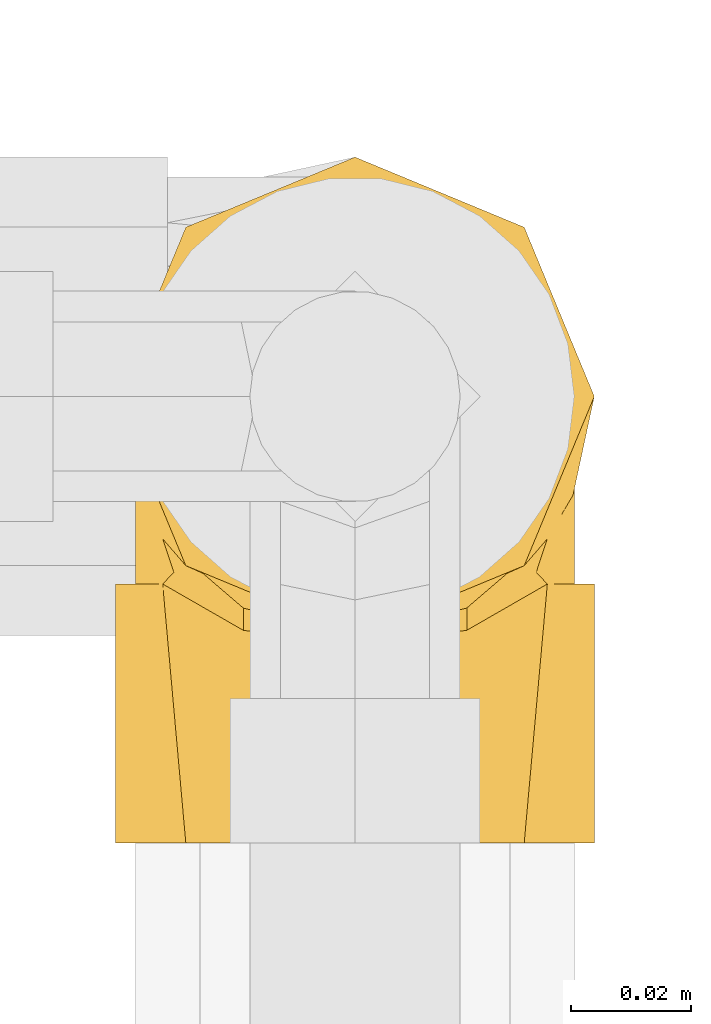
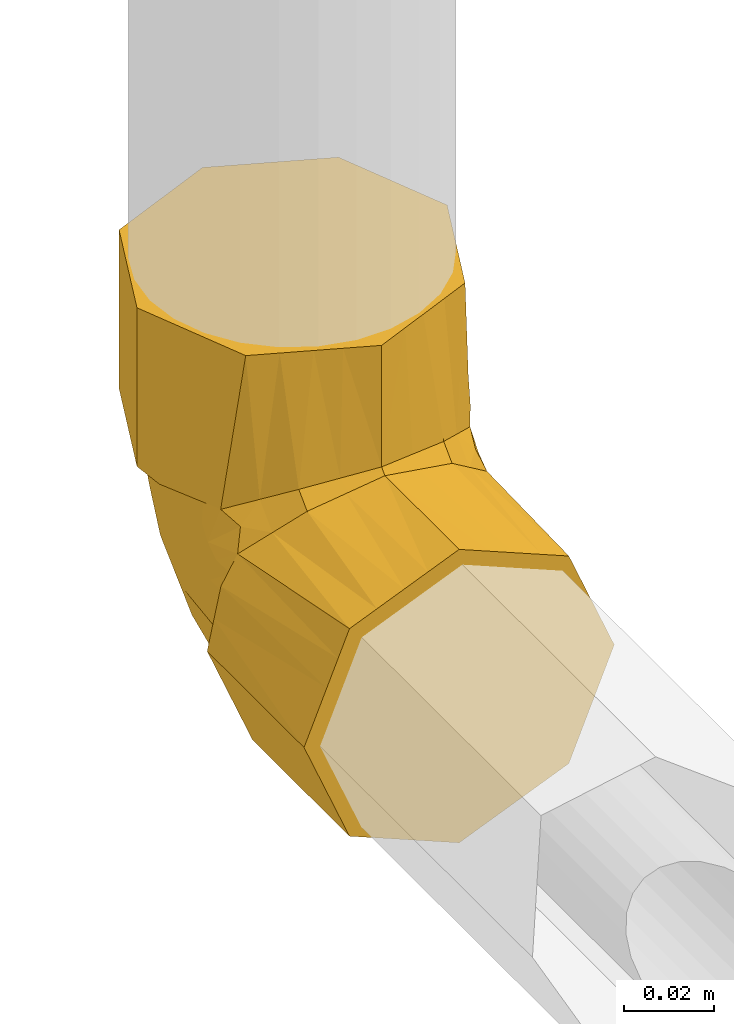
# One storey, part 249 of 652: 1 covering.
"""IFC2X3 building model written with IfcOpenShell, lengths in millimetres."""

import ifcopenshell
import ifcopenshell.guid

model = None  # the IFC model being written
_history = None  # IfcOwnerHistory: only IFC2X3 demands one
_inside = {}  # id of a spatial element -> (the spatial element, [elements in it])
_under = {}  # id of a project, library or spatial element -> (it, [spatial elements below it])
_declared = {}  # id of a project -> (the project, [libraries it declares])
_typed = {}  # id of a type object -> (the type object, [elements of that type])
_made_of = {}  # id of a material, layer set ... -> (it, [elements and type objects made of it])


def new_model(schema):
    """Start an empty IFC model of exactly this schema.

    Asked for "IFC4X3", IfcOpenShell would pick the latest addendum, in which some entities
    have other attributes; the version numbers below select the first issue.
    IFC2X3 requires an IfcOwnerHistory on every rooted entity: one is made here for all.
    """
    global model, _history
    if schema == "IFC4X3":
        model = ifcopenshell.file(schema_version=(4, 3, 0, 0))
    else:
        model = ifcopenshell.file(schema=schema)
    _inside.clear()
    _under.clear()
    _declared.clear()
    _typed.clear()
    _made_of.clear()
    _history = None
    if model.schema == "IFC2X3":
        org = make("IfcOrganization", Name="unknown")
        user = make(
            "IfcPersonAndOrganization",
            ThePerson=make("IfcPerson", FamilyName="unknown"),
            TheOrganization=org,
        )
        app = make(
            "IfcApplication",
            ApplicationDeveloper=org,
            Version="unknown",
            ApplicationFullName="unknown",
            ApplicationIdentifier="unknown",
        )
        _history = make(
            "IfcOwnerHistory",
            OwningUser=user,
            OwningApplication=app,
            ChangeAction="ADDED",
            CreationDate=0,
        )
    return model


def make(cls, **values):
    """One entity of the class cls with the attributes given. An attribute that is None is left unset."""
    return model.create_entity(
        cls, **{name: value for name, value in values.items() if value is not None}
    )


def entity(cls, *values):
    """Any entity or typed value of the class cls, its attributes in the order of the schema. None: left unset."""
    e = model.create_entity(cls)
    for i, value in enumerate(values):
        if value is not None:
            e[i] = value
    return e


def rooted(cls, **values):
    """An entity with a GlobalId (a new one), such as an element, a storey or a relation."""
    return make(cls, GlobalId=ifcopenshell.guid.new(), OwnerHistory=_history, **values)


def si_unit(unit_type, name, prefix=None):
    """IfcSIUnit, for example si_unit("LENGTHUNIT", "METRE", prefix="MILLI")."""
    return make("IfcSIUnit", UnitType=unit_type, Prefix=prefix, Name=name)


def converted_unit(unit_type, name, factor, base, dimensions=None, offset=None):
    """IfcConversionBasedUnit, such as the inch: factor (a typed value) times the base unit."""
    return make(
        "IfcConversionBasedUnit"
        if offset is None
        else "IfcConversionBasedUnitWithOffset",
        ConversionOffset=offset,
        Dimensions=None
        if dimensions is None
        else entity("IfcDimensionalExponents", *dimensions),
        UnitType=unit_type,
        Name=name,
        ConversionFactor=make(
            "IfcMeasureWithUnit", ValueComponent=factor, UnitComponent=base
        ),
    )


def assignment(units):
    """IfcUnitAssignment: the units of a project."""
    return None if units is None else make("IfcUnitAssignment", Units=units)


def point(xyz):
    """IfcCartesianPoint."""
    return None if xyz is None else make("IfcCartesianPoint", Coordinates=xyz)


def direction(xyz):
    """IfcDirection."""
    return None if xyz is None else make("IfcDirection", DirectionRatios=xyz)


def frame(location, z_axis=None, x_axis=None):
    """IfcAxis2Placement3D, a coordinate frame: its origin and axes. An axis left out is left unset."""
    return make(
        "IfcAxis2Placement3D",
        Location=point(location),
        Axis=direction(z_axis),
        RefDirection=direction(x_axis),
    )


def origin():
    """The frame at (0, 0, 0) with its axes left unset."""
    return frame((0.0, 0.0, 0.0))


def place(relative_to, where):
    """IfcLocalPlacement: puts the frame where relative to a parent placement (None: the world)."""
    return make(
        "IfcLocalPlacement", PlacementRelTo=relative_to, RelativePlacement=where
    )


def context(
    kind, dimensions, precision=None, world=None, true_north=None, identifier=None
):
    """IfcGeometricRepresentationContext, for example the 3D "Model" context."""
    return make(
        "IfcGeometricRepresentationContext",
        ContextIdentifier=identifier,
        ContextType=kind,
        CoordinateSpaceDimension=dimensions,
        Precision=precision,
        WorldCoordinateSystem=world,
        TrueNorth=true_north,
    )


def subcontext(parent, identifier, kind, view, scale=None):
    """IfcGeometricRepresentationSubContext, for example "Body" below "Model"."""
    return make(
        "IfcGeometricRepresentationSubContext",
        ContextIdentifier=identifier,
        ContextType=kind,
        ParentContext=parent,
        TargetScale=scale,
        TargetView=view,
    )


def project(units=None, contexts=None):
    """IfcProject with its units and contexts."""
    return rooted(
        "IfcProject",
        Name="project",
        RepresentationContexts=contexts,
        UnitsInContext=assignment(units),
    )


def spatial(cls, under=None, at=None, **own):
    """A site, building, storey or space (cls), placed at a placement, below another one or the project."""
    s = rooted(cls, ObjectPlacement=at, **own)
    if under is not None:
        _under.setdefault(under.id(), (under, []))[1].append(s)
    return s


def faces_of(points, faces, orient=None, outer=None):
    """IfcFace entities. A face is a list of loops; a loop is a list of indices into points, from 0.

    orient and outer hold one flag for each loop. By default every Orientation is true, the
    first loop of a face is its IfcFaceOuterBound and the others are IfcFaceBound.
    """
    made = []
    for i, loops in enumerate(faces):
        bounds = []
        for j, loop in enumerate(loops):
            is_outer = j == 0 if outer is None else outer[i][j]
            bounds.append(
                make(
                    "IfcFaceOuterBound" if is_outer else "IfcFaceBound",
                    Bound=make("IfcPolyLoop", Polygon=[points[k] for k in loop]),
                    Orientation=True if orient is None else orient[i][j],
                )
            )
        made.append(make("IfcFace", Bounds=bounds))
    return made


def faceted_brep(points, faces, orient=None, outer=None, voids=None):
    """IfcFacetedBrep: a solid bounded by flat faces; with voids (closed shells), ...WithVoids."""
    shared = [point(p) for p in points]
    hull = make("IfcClosedShell", CfsFaces=faces_of(shared, faces, orient, outer))
    if voids is None:
        return make("IfcFacetedBrep", Outer=hull)
    return make(
        "IfcFacetedBrepWithVoids",
        Outer=hull,
        Voids=[
            make(cls, CfsFaces=faces_of(shared, fs, o, b)) for cls, fs, o, b in voids
        ],
    )


def shape(context_of_items, identifier, shape_type, items):
    """IfcShapeRepresentation: the items that make up one representation, for example the "Body"."""
    return make(
        "IfcShapeRepresentation",
        ContextOfItems=context_of_items,
        RepresentationIdentifier=identifier,
        RepresentationType=shape_type,
        Items=items,
    )


def material(Name=None, Category=None):
    """IfcMaterial."""
    return make("IfcMaterial", Name=Name, Category=Category)


def made_of(thing, what):
    """Note that an element or type object is made of a material, layer set ...; save() writes the relation."""
    if what is not None:
        _made_of.setdefault(what.id(), (what, []))[1].append(thing)
    return thing


def type_object(cls, material=None, **own):
    """A type object (cls), such as IfcWallType, which elements share."""
    return made_of(rooted(cls, **own), material)


def element(
    cls,
    number,
    at=None,
    inside=None,
    cuts=None,
    type_object=None,
    material=None,
    context=None,
    identifier="Body",
    shape_type=None,
    held_by="IfcProductDefinitionShape",
    body=None,
    shapes=None,
    **own,
):
    """One element of the class cls, such as IfcWall. Its Tag is "e" and its number.

    at: its placement. inside: the storey or other place that contains it. cuts: it is an
    opening in that element (IfcRelVoidsElement). A single representation is given by context,
    identifier, shape_type and body (its items); several are given by shapes. held_by: the class
    of the entity that holds the representations. save() writes the other relations.
    """
    e = rooted(cls, Tag="e%d" % number, ObjectPlacement=at, **own)
    if body is not None:
        shapes = [shape(context, identifier, shape_type, body)]
    if shapes is not None:
        e.Representation = make(held_by, Representations=shapes)
    if inside is not None:
        _inside.setdefault(inside.id(), (inside, []))[1].append(e)
    if cuts is not None:
        rooted(
            "IfcRelVoidsElement", RelatingBuildingElement=cuts, RelatedOpeningElement=e
        )
    if type_object is not None:
        _typed.setdefault(type_object.id(), (type_object, []))[1].append(e)
    return made_of(e, material)


def aggregate(whole, parts):
    """IfcRelAggregates: a whole, such as a stair, and the parts it consists of."""
    return rooted("IfcRelAggregates", RelatingObject=whole, RelatedObjects=parts)


def save(model, path):
    """Write the relations noted so far, then the file.

    IfcRelAggregates (storeys below a building ...), IfcRelContainedInSpatialStructure (elements
    in a storey), IfcRelDefinesByType, IfcRelAssociatesMaterial and IfcRelDeclares: one each for
    every whole, place, type object, material and project.
    """
    for whole, parts in _under.values():
        aggregate(whole, parts)
    for where, things in _inside.values():
        rooted(
            "IfcRelContainedInSpatialStructure",
            RelatedElements=things,
            RelatingStructure=where,
        )
    for kind, things in _typed.values():
        rooted("IfcRelDefinesByType", RelatedObjects=things, RelatingType=kind)
    for what, things in _made_of.values():
        rooted("IfcRelAssociatesMaterial", RelatedObjects=things, RelatingMaterial=what)
    for by, libraries in _declared.values():
        rooted("IfcRelDeclares", RelatingContext=by, RelatedDefinitions=libraries)
    model.write(path)


model = new_model("IFC2X3")

# Units and contexts
model_context = context("Model", 3, precision=0.01, world=frame((0.0, 0.0, 308426.39999999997)), true_north=direction((6.123233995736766e-17, 1.0)))
plan_context = context("Plan", 3, precision=0.01, world=frame((0.0, 0.0, 308426.39999999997)), true_north=direction((6.123233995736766e-17, 1.0)))
body_context = subcontext(model_context, "Body", "Model", "MODEL_VIEW")
ifc_project = project(units=[si_unit("LENGTHUNIT", "METRE", prefix="MILLI"), si_unit("AREAUNIT", "SQUARE_METRE"), si_unit("VOLUMEUNIT", "CUBIC_METRE"), converted_unit("PLANEANGLEUNIT", "DEGREE", entity("IfcPlaneAngleMeasure", 0.017453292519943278), si_unit("PLANEANGLEUNIT", "RADIAN"), dimensions=[0, 0, 0, 0, 0, 0, 0])], contexts=[model_context, plan_context])

# Site, building, storey
site_placement = place(None, origin())
site = spatial("IfcSite", under=ifc_project, at=site_placement, Name="Default", CompositionType="ELEMENT")
building_placement = place(site_placement, origin())
building = spatial("IfcBuilding", under=site, at=building_placement, CompositionType="ELEMENT")
storey_placement = place(building_placement, frame((0.0, 0.0, 1730.6999999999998)))
storey = spatial("IfcBuildingStorey", under=building, at=storey_placement, Name="EG_Produktion_FFB", CompositionType="ELEMENT", Elevation=1730.6999999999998)

# Covering
ifc_material = material(Name="Dämmung - Armaflex-Schlauch")
covering_type = type_object("IfcCoveringType", Name="Rohrdämmung außen:Armaflex-Schlauch", PredefinedType="INSULATION")
covering_placement = place(storey_placement, frame((79340.69747546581, 51563.778353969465, 2358.6047277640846)))
element("IfcCovering", 1, at=covering_placement, inside=storey, type_object=covering_type, material=ifc_material, Name="Rohrdämmung außen:Armaflex-Schlauch", ObjectType="Rohrdämmung außen:Armaflex-Schlauch", PredefinedType="INSULATION", context=body_context, shape_type="Brep", body=[
    faceted_brep([(76.69198954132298, 60.27488441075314, 72.59527223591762), (77.16404151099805, 64.29230202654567, 72.59527223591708), (77.89527223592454, 70.51547105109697, 72.59527223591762), (74.4519948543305, 78.15029623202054, 72.59527223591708), (71.00871747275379, 85.78512141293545, 72.59527223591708), (67.77111678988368, 92.96389688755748, 72.59527223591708), (64.53351610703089, 100.14267236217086, 72.59527223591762), (52.96439417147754, 104.39258305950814, 72.59527223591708), (41.395272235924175, 108.64249375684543, 72.59527223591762), (34.17684368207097, 104.99325000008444, 72.59527223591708), (26.95841512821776, 101.34400624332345, 72.59527223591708), (19.739986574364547, 97.69476248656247, 72.59527223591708), (12.521558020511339, 94.04551872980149, 72.59527223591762), (10.13128984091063, 86.6706149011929, 72.59527223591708), (7.513281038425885, 78.59304297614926, 72.59527223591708), (4.895272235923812, 70.51547105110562, 72.59527223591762), (5.6265029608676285, 64.29230202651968, 72.59527223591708), (6.09855493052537, 60.27488441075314, 72.59527223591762), (7.751839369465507, 55.42320232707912, 72.59527223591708), (9.405123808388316, 50.5715202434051, 72.59527223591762), (5.948218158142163, 58.21189368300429, 72.59527223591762), (2.4913125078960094, 65.8522671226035, 72.59527223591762), (1.5952722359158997, 74.25000000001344, 72.59527223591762), (4.909068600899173, 82.25021212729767, 72.59527223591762), (7.4238472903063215, 88.32142494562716, 72.59527223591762), (10.338134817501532, 95.35713741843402, 72.59527223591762), (13.252422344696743, 102.39284989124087, 72.59527223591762), (20.28813481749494, 105.30713741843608, 72.59527223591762), (27.32384729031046, 108.22142494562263, 72.59527223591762), (34.35955976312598, 111.13571247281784, 72.59527223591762), (41.395272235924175, 114.05000000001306, 72.59527223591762), (49.3954844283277, 110.7362036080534, 72.59527223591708), (55.466697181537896, 108.22142494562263, 72.59527223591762), (62.50240965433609, 105.30713741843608, 72.59527223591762), (69.53812212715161, 102.39284989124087, 72.59527223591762), (72.45240965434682, 95.35713741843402, 72.59527223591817), (75.36669718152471, 88.32142494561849, 72.59527223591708), (77.88147639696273, 82.2502108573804, 72.59527223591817), (81.19527223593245, 74.25000000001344, 72.59527223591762), (79.425746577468, 66.04659216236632, 72.59527223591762), (77.65622091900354, 57.84318432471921, 72.59527223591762), (73.38542066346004, 50.5715202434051, 72.59527223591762), (75.03870510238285, 55.42320232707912, 72.59527223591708), (4.509559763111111, 67.21428752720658, 115.64527223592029), (7.4238472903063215, 60.17857505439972, 115.64527223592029), (10.338134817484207, 53.142862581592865, 115.64527223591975), (13.252422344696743, 46.10715010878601, 115.64527223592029), (20.28813481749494, 43.192862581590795, 115.64527223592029), (27.32384729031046, 40.27857505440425, 115.64527223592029), (33.39505987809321, 37.76379646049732, 115.64527223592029), (41.395272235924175, 34.45000000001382, 115.64527223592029), (49.39548296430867, 37.76379578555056, 115.64527223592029), (55.466697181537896, 40.27857505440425, 115.64527223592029), (62.502409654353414, 43.19286258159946, 115.64527223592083), (69.53812212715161, 46.10715010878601, 115.64527223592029), (72.45240965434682, 53.142862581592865, 115.64527223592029), (75.36669718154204, 60.17857505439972, 115.64527223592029), (78.28098470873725, 67.21428752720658, 115.64527223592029), (81.19527223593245, 74.25000000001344, 115.64527223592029), (78.28098470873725, 81.2857124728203, 115.64527223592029), (75.36669718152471, 88.32142494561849, 115.64527223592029), (72.45240965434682, 95.35713741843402, 115.64527223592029), (69.53812212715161, 102.39284989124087, 115.64527223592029), (62.502409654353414, 105.30713741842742, 115.64527223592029), (55.466697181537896, 108.22142494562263, 115.64527223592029), (48.43098470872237, 111.13571247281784, 115.64527223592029), (41.395272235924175, 114.05000000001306, 115.64527223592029), (34.359559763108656, 111.13571247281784, 115.64527223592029), (27.32384729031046, 108.22142494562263, 115.64527223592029), (20.28813481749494, 105.30713741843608, 115.64527223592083), (13.252422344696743, 102.39284989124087, 115.64527223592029), (8.222865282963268, 90.25042502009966, 115.64527223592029), (4.90906875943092, 82.25021251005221, 115.64527223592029), (1.5952722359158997, 74.25000000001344, 115.64527223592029), (16.10717069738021, 44.81389553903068, 76.44407623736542), (41.395272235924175, 34.45000000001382, 82.67731282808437), (32.10224491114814, 36.75313541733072, 81.48509653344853), (22.809217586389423, 39.05627083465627, 80.29288023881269), (27.45573124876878, 37.90470312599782, 80.88898838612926), (66.68337377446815, 44.81389553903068, 76.44407623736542), (50.688299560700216, 36.75313541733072, 81.48509653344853), (59.981326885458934, 39.05627083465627, 80.29288023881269), (45.709172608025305, 35.519134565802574, 82.123876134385), (81.19527223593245, 43.05000000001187, 41.39527223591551), (77.88147589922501, 43.05000000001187, 33.39506017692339), (75.36669718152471, 43.05000000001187, 27.32384729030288), (72.45240965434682, 43.05000000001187, 20.288134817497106), (69.53812212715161, 43.05000000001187, 13.252422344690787), (62.50240965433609, 43.05000000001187, 10.3381348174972), (55.466697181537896, 43.05000000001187, 7.4238472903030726), (49.39548303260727, 43.05000000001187, 4.909068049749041), (41.395272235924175, 43.05000000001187, 1.5952722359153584), (33.39506041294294, 43.05000000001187, 4.909068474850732), (27.32384729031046, 43.05000000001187, 7.4238472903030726), (20.28813481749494, 43.05000000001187, 10.3381348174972), (13.252422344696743, 43.05000000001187, 13.252422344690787), (10.338134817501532, 43.05000000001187, 20.288134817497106), (7.4238472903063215, 43.05000000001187, 27.32384729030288), (4.509559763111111, 43.05000000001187, 34.359559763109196), (1.5952722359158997, 43.05000000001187, 41.39527223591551), (3.3647978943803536, 43.05000000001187, 49.59868007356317), (5.1343235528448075, 43.05000000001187, 57.802087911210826), (9.405123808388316, 43.05000000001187, 65.07375199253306), (7.751839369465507, 43.05000000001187, 60.222069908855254), (6.09855493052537, 43.05000000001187, 55.370387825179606), (5.626503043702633, 43.05000000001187, 51.35297091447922), (5.260887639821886, 43.05000000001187, 48.241386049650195), (4.895272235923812, 43.05000000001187, 45.12980118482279), (8.235711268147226, 43.05000000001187, 37.723000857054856), (11.576150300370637, 43.05000000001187, 30.316200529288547), (14.91658933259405, 43.05000000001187, 22.90940020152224), (18.25702836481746, 43.05000000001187, 15.502599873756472), (24.04158933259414, 43.05000000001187, 13.377644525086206), (29.82615030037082, 43.05000000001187, 11.252689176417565), (41.395272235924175, 43.05000000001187, 7.002778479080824), (48.61370078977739, 43.05000000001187, 10.652022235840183), (55.8321293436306, 43.05000000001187, 14.301265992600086), (63.05055789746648, 43.05000000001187, 17.950509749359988), (70.26898645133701, 43.05000000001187, 21.599753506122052), (72.1755578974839, 43.05000000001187, 27.48226542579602), (74.08212934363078, 43.05000000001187, 33.36477734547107), (77.89527223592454, 43.05000000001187, 45.12980118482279), (77.5296568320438, 43.05000000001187, 48.241386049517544), (77.16404142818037, 43.05000000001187, 51.35297091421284), (76.69198954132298, 43.05000000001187, 55.370387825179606), (75.03870510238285, 43.05000000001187, 60.222069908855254), (73.38542066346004, 43.05000000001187, 65.07375199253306), (76.84232631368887, 43.05000000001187, 57.43337855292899), (80.29923196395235, 43.05000000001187, 49.793005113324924), (4.509559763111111, 0.0, 34.359559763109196), (7.4238472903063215, 0.0, 27.32384729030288), (10.338134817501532, 0.0, 20.288134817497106), (13.252422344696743, 0.0, 13.252422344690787), (25.394847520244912, 0.0, 8.222865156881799), (33.395059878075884, 0.0, 4.909068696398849), (41.395272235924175, 0.0, 1.5952722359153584), (48.4309847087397, 0.0, 4.509559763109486), (55.466697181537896, 0.0, 7.4238472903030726), (62.502409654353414, 0.0, 10.3381348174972), (69.53812212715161, 0.0, 13.252422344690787), (72.45240965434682, 0.0, 20.288134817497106), (75.36669718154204, 0.0, 27.323847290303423), (78.28098470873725, 0.0, 34.359559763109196), (81.19527223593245, 0.0, 41.39527223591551), (78.28098470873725, 0.0, 48.43098470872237), (75.36669718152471, 0.0, 55.46669718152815), (72.45240965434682, 0.0, 62.502409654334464), (69.53812212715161, 0.0, 69.53812212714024), (62.50240965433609, 0.0, 72.45240965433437), (55.466697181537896, 0.0, 75.36669718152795), (49.395484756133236, 0.0, 77.88147570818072), (41.395272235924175, 0.0, 81.19527223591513), (33.39506148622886, 0.0, 77.8814764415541), (27.32384729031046, 0.0, 75.36669718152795), (20.28813481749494, 0.0, 72.45240965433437), (13.252422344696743, 0.0, 69.5381221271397), (10.338134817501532, 0.0, 62.502409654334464), (7.4238472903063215, 0.0, 55.46669718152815), (4.90906875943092, 0.0, 49.39548474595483), (1.5952722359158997, 0.0, 41.39527223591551), (41.395272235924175, 32.96795940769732, 81.19527223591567), (32.10224491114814, 34.16017570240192, 78.89213681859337), (22.809217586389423, 35.352391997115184, 76.58900140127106), (32.76747165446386, 34.074832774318, 79.0570031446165), (16.10717069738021, 39.20119599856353, 70.83137669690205), (66.68337377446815, 39.20119599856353, 70.83137669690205), (50.688299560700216, 34.16017570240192, 78.89213681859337), (59.981326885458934, 35.352391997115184, 76.58900140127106), (50.023072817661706, 34.07483277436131, 79.05700314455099), (45.70917252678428, 33.521396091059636, 80.12613769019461), (12.137636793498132, 58.24079315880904, 28.20525929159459), (11.87717849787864, 86.4238810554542, 56.296662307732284), (8.382450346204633, 75.59250700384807, 50.74220800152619), (4.895272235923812, 63.92252865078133, 61.095740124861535), (5.713016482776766, 71.17655553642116, 57.98700830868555), (5.8222745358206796, 60.439192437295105, 45.95172817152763), (14.296044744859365, 74.83335357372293, 36.87858536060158), (17.30233981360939, 90.75599680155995, 51.90950860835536), (41.395272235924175, 78.05964753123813, 23.773093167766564), (33.32676084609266, 68.73900024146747, 18.355767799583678), (32.96395689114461, 88.0879245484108, 34.6230170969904), (41.395272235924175, 100.99678220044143, 60.38972746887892), (31.964252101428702, 100.72890118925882, 53.86132940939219), (20.549133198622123, 79.3642341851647, 33.57636526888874), (4.895272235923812, 45.44339488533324, 46.96057105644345), (4.895272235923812, 47.83678977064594, 48.79134092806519), (4.895272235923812, 52.623579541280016, 52.45288067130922), (4.895272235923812, 53.48626432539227, 53.11277065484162), (4.895272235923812, 58.273054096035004, 56.774310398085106), (17.212038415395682, 60.58912548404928, 23.205290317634), (23.53050384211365, 91.05864711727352, 44.28104373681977), (22.51394610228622, 98.30280172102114, 58.15137452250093), (24.549624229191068, 69.72353148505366, 22.79549192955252), (26.889985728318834, 81.64819008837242, 30.873524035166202), (41.395272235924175, 60.554823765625, 15.387935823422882), (41.395272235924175, 59.36959978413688, 14.820190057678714), (41.395272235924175, 93.3510706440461, 48.18418270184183), (41.395272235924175, 89.63440863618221, 42.2509370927), (41.395272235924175, 85.70535908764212, 35.97863793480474), (26.990425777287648, 57.766782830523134, 14.945981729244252), (8.923083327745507, 62.47007406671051, 36.867162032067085), (41.395272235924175, 99.13845119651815, 57.423104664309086), (4.895272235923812, 67.49149366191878, 67.32079492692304), (5.551365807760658, 59.666271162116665, 66.95210059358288), (6.7794642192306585, 54.380516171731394, 67.68084856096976), (41.395272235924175, 33.7373629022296, 81.90790933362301), (6.67492176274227, 51.58600444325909, 64.05926727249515), (11.256462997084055, 44.988220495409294, 70.6570520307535), (6.779464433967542, 47.964422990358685, 61.26475634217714), (5.565993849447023, 48.600669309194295, 56.007071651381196), (77.23917866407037, 59.666271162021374, 66.95210059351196), (77.89527223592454, 67.49149366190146, 67.32079492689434), (71.53408126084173, 44.988220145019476, 70.65705212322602), (76.11562236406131, 51.58600369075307, 64.05926802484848), (77.89527223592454, 58.27305409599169, 56.77431039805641), (76.01108024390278, 54.38051616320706, 67.68084859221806), (76.0110800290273, 47.964422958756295, 61.26475635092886), (77.22455062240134, 48.600669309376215, 56.00707165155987), (77.89527223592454, 47.83678977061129, 48.79134092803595), (77.89527223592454, 45.44339488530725, 46.960571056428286), (77.89527223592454, 52.62357954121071, 52.45288067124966), (77.89527223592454, 53.48626432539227, 53.11277065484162), (77.89527223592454, 63.92252865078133, 61.095740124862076), (74.88548195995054, 78.04605099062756, 55.92558282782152), (71.63811259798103, 85.86464632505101, 57.4139733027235), (75.88128030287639, 57.28407964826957, 39.06942451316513), (50.936922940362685, 85.39557345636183, 32.13825863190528), (66.01081764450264, 77.1326304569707, 35.60937189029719), (73.66795483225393, 68.40775802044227, 41.04790396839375), (68.18016612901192, 64.68623376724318, 28.563300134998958), (76.89391588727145, 64.86103671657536, 49.41604325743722), (76.90253078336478, 73.19256047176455, 59.57339087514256), (67.442424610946, 85.80852657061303, 47.698903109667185), (60.24926798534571, 75.97220466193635, 28.835844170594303), (51.155822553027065, 65.78116038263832, 17.11926795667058), (60.06313251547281, 60.54924680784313, 18.65249739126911), (73.1644164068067, 57.39039413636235, 32.13302466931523), (58.185809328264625, 95.8304015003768, 50.70784697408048), (61.70447135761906, 86.4936670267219, 40.74702574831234), (66.03176901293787, 94.2090126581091, 59.54929026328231), (49.67361740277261, 97.21317313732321, 46.87378760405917)], [[[0, 1, 2, 3, 4, 5, 6, 7, 8, 9, 10, 11, 12, 13, 14, 15, 16, 17, 18, 19, 20, 21, 22, 23, 24, 25, 26, 27, 28, 29, 30, 31, 32, 33, 34, 35, 36, 37, 38, 39, 40, 41, 42]], [[43, 44, 45, 46, 47, 48, 49, 50, 51, 52, 53, 54, 55, 56, 57, 58, 59, 60, 61, 62, 63, 64, 65, 66, 67, 68, 69, 70, 71, 72, 73]], [[47, 46, 74]], [[75, 50, 49]], [[76, 75, 49]], [[48, 77, 78, 76]], [[47, 74, 77]], [[44, 20, 45]], [[43, 21, 44]], [[46, 19, 74]], [[77, 48, 47]], [[44, 21, 20]], [[43, 22, 21]], [[48, 76, 49]], [[43, 73, 22]], [[45, 20, 19]], [[19, 46, 45]], [[23, 22, 73, 72, 71, 70, 26, 25, 24]], [[26, 70, 69, 68, 67, 66, 30, 29, 28, 27]], [[38, 37, 36, 35, 34, 62, 61, 60, 59, 58]], [[30, 66, 65, 64, 63, 62, 34, 33, 32, 31]], [[56, 40, 39]], [[53, 79, 54]], [[39, 57, 56]], [[41, 55, 54]], [[40, 55, 41]], [[80, 52, 51]], [[52, 80, 81]], [[58, 57, 38]], [[51, 75, 82, 80]], [[38, 57, 39]], [[79, 53, 81]], [[55, 40, 56]], [[51, 50, 75]], [[53, 52, 81]], [[79, 41, 54]], [[83, 84, 85, 86, 87, 88, 89, 90, 91, 92, 93, 94, 95, 96, 97, 98, 99, 100, 101, 102, 103, 104, 105, 106, 107, 108, 109, 110, 111, 112, 113, 114, 115, 116, 117, 118, 119, 120, 121, 122, 123, 124, 125, 126, 127, 128]], [[129, 130, 131, 132, 133, 134, 135, 136, 137, 138, 139, 140, 141, 142, 143, 144, 145, 146, 147, 148, 149, 150, 151, 152, 153, 154, 155, 156, 157, 158, 159]], [[135, 134, 133, 132, 95, 94, 93, 92, 91]], [[95, 132, 131, 130, 129, 159, 99, 98, 97, 96]], [[159, 158, 157, 100]], [[101, 156, 102]], [[99, 159, 100]], [[101, 100, 157]], [[152, 151, 160]], [[102, 156, 155]], [[153, 161, 162]], [[161, 153, 152]], [[152, 160, 163, 161]], [[154, 164, 155]], [[164, 154, 162]], [[156, 101, 157]], [[154, 153, 162]], [[164, 102, 155]], [[148, 147, 165]], [[149, 166, 150]], [[166, 149, 167]], [[160, 151, 150]], [[148, 165, 167]], [[145, 127, 146]], [[144, 128, 145]], [[147, 126, 165]], [[167, 149, 148]], [[145, 128, 127]], [[144, 83, 128]], [[150, 166, 168, 169, 160]], [[144, 143, 83]], [[146, 127, 126]], [[126, 147, 146]], [[91, 90, 89, 88, 87, 139, 138, 137, 136, 135]], [[141, 140, 139, 87, 86, 85, 84, 83, 143, 142]], [[109, 170, 110]], [[13, 171, 172]], [[14, 13, 172]], [[173, 174, 175]], [[176, 171, 177]], [[15, 14, 174]], [[178, 179, 180]], [[9, 181, 182]], [[172, 175, 174]], [[13, 12, 171]], [[12, 11, 177]], [[176, 177, 183]], [[175, 107, 184, 185, 186, 187, 188, 173]], [[189, 170, 176]], [[176, 172, 171]], [[190, 191, 182]], [[11, 10, 191]], [[177, 11, 191]], [[170, 189, 110]], [[192, 183, 193]], [[179, 178, 194, 195]], [[182, 191, 10]], [[190, 182, 180]], [[177, 191, 190]], [[182, 10, 9]], [[182, 196, 180]], [[177, 190, 183]], [[177, 171, 12]], [[180, 196, 197, 198, 178]], [[113, 179, 195]], [[112, 111, 199, 113]], [[199, 111, 189]], [[195, 114, 113]], [[179, 192, 193]], [[200, 175, 172]], [[200, 108, 175]], [[172, 176, 200]], [[189, 111, 110]], [[200, 170, 109]], [[183, 189, 176]], [[108, 200, 109]], [[189, 192, 199]], [[108, 107, 175]], [[176, 170, 200]], [[193, 190, 180]], [[189, 183, 192]], [[190, 193, 183]], [[179, 193, 180]], [[181, 9, 8]], [[182, 181, 201, 196]], [[192, 179, 199]], [[179, 113, 199]], [[174, 173, 202, 15]], [[172, 174, 14]], [[173, 203, 202]], [[188, 204, 203]], [[17, 203, 18]], [[202, 17, 16, 15]], [[205, 76, 163]], [[74, 164, 162, 77]], [[163, 76, 78, 77, 162, 161]], [[206, 102, 207]], [[207, 164, 74]], [[106, 105, 104, 185, 184, 107]], [[206, 208, 102]], [[186, 185, 209, 188, 187]], [[205, 75, 76]], [[163, 160, 205]], [[206, 207, 19]], [[164, 207, 102]], [[19, 18, 204]], [[19, 207, 74]], [[202, 203, 17]], [[204, 206, 19]], [[203, 173, 188]], [[18, 203, 204]], [[102, 208, 103]], [[103, 209, 104]], [[208, 206, 188]], [[209, 103, 208]], [[209, 185, 104]], [[188, 209, 208]], [[204, 188, 206]], [[205, 160, 169]], [[210, 211, 0]], [[169, 168, 166, 167, 81, 80, 82]], [[41, 212, 213]], [[1, 0, 211, 2]], [[213, 214, 215]], [[205, 169, 82]], [[79, 165, 212]], [[126, 125, 216]], [[213, 212, 126]], [[205, 82, 75]], [[167, 165, 79, 81]], [[217, 124, 218]], [[210, 215, 214]], [[122, 121, 219, 218, 124, 123]], [[41, 79, 212]], [[212, 165, 126]], [[215, 41, 213]], [[125, 124, 217]], [[126, 216, 213]], [[125, 217, 216]], [[217, 218, 220, 221, 214]], [[215, 42, 41]], [[0, 42, 210]], [[211, 210, 222]], [[214, 213, 216]], [[210, 42, 215]], [[216, 217, 214]], [[210, 214, 222]], [[4, 223, 224]], [[121, 120, 225]], [[226, 178, 198, 197]], [[227, 228, 229]], [[230, 228, 223]], [[231, 222, 230]], [[224, 228, 232]], [[233, 234, 226]], [[3, 231, 223]], [[235, 234, 233]], [[236, 225, 120]], [[231, 2, 211, 222]], [[226, 237, 238]], [[4, 3, 223]], [[225, 221, 220, 218, 219, 121]], [[239, 224, 232]], [[6, 237, 7]], [[237, 6, 239]], [[240, 201, 7]], [[230, 225, 228]], [[226, 240, 237]], [[236, 228, 225]], [[229, 117, 235]], [[194, 234, 115]], [[226, 234, 178]], [[115, 114, 195, 194]], [[237, 239, 238]], [[240, 226, 197]], [[228, 224, 223]], [[224, 239, 5]], [[5, 239, 6]], [[5, 4, 224]], [[239, 232, 238]], [[7, 201, 181, 8]], [[7, 237, 240]], [[240, 197, 196, 201]], [[229, 118, 117]], [[194, 178, 234]], [[233, 238, 227]], [[235, 117, 116]], [[234, 235, 116]], [[229, 235, 233]], [[231, 3, 2]], [[230, 223, 231]], [[230, 222, 214, 221]], [[225, 230, 221]], [[119, 118, 236, 120]], [[236, 118, 229]], [[229, 228, 236]], [[234, 116, 115]], [[227, 238, 232]], [[226, 238, 233]], [[228, 227, 232]], [[233, 227, 229]]]),
])

save(model, "model.ifc")
